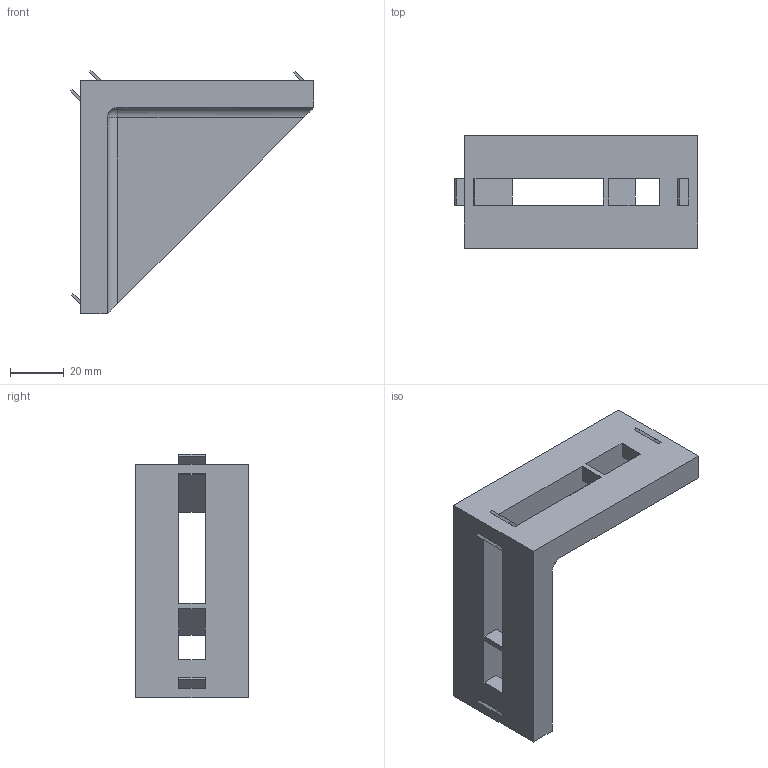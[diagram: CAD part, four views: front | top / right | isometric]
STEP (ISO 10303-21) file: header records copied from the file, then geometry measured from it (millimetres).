
FILE_DESCRIPTION((''),'2;1');
FILE_NAME('SQ087042','2002-12-27T',('Lipro doo'),('Lipro d.o.o.'),'PRO/ENGINEER BY PARAMETRIC TECHNOLOGY CORPORATION, 2001150','PRO/ENGINEER BY PARAMETRIC TECHNOLOGY CORPORATION, 2001150','');
FILE_SCHEMA(('CONFIG_CONTROL_DESIGN'));
Length unit declared in the file: millimetre
Products named in the file (1): SQ087042
Bounding box: 90.83 x 42 x 90.83 mm (x, y, z)
Volume: 73668.4 mm3; surface area: 24607.8 mm2
Topology: 1 solids, 1 shells, 52 faces, 135 edges, 87 vertices
Faces by surface type: plane 48, cylinder 3, sphere 1
Entity records: 1619 total; most frequent: CARTESIAN_POINT 292, ORIENTED_EDGE 270, DIRECTION 241, EDGE_CURVE 135, VECTOR 129, LINE 129, VERTEX_POINT 87, EDGE_LOOP 62
